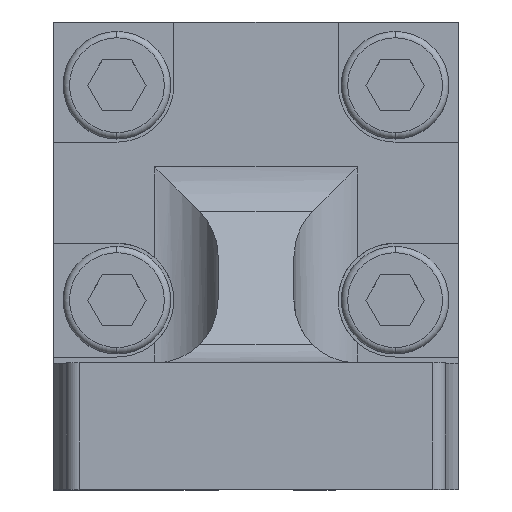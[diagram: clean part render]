
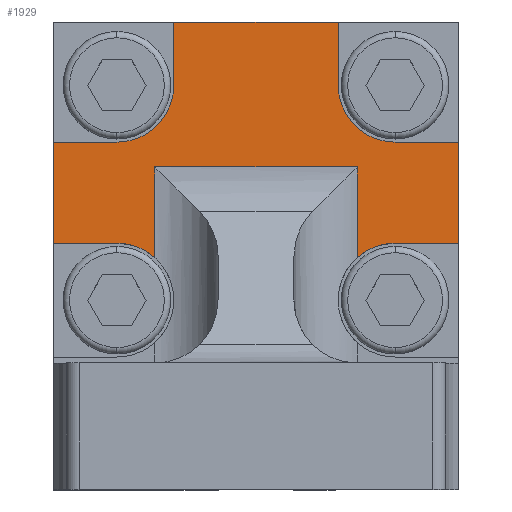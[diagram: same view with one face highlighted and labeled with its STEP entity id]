
A CAD part, top view. The second image highlights one B-rep face of the part: STEP entity #1929.
In plain terms, the highlighted planar face has unit normal (0, 0, 1).
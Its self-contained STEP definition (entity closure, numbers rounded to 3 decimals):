
#31 = CARTESIAN_POINT ( 'NONE',  ( 11., 32., 10. ) ) ;
#36 = CARTESIAN_POINT ( 'NONE',  ( -16., 37., 10. ) ) ;
#57 = CARTESIAN_POINT ( 'NONE',  ( -16., 27.5, 10. ) ) ;
#278 = VECTOR ( 'NONE', #499, 1000. ) ;
#345 = EDGE_CURVE ( 'NONE', #1426, #6202, #1467, .T. ) ;
#370 = VECTOR ( 'NONE', #4044, 1000. ) ;
#421 = EDGE_CURVE ( 'NONE', #1113, #6202, #2029, .T. ) ;
#436 = CARTESIAN_POINT ( 'NONE',  ( 0., 27.5, 10. ) ) ;
#481 = CARTESIAN_POINT ( 'NONE',  ( -11., 15., 10. ) ) ;
#499 = DIRECTION ( 'NONE',  ( 1., 0., 0. ) ) ;
#597 = CARTESIAN_POINT ( 'NONE',  ( 6.5, 37., 10. ) ) ;
#605 = CARTESIAN_POINT ( 'NONE',  ( 16., 0., 10. ) ) ;
#714 = DIRECTION ( 'NONE',  ( -1., 0., 0. ) ) ;
#722 = VECTOR ( 'NONE', #3368, 1000. ) ;
#743 = CARTESIAN_POINT ( 'NONE',  ( 0., 0., 10. ) ) ;
#776 = DIRECTION ( 'NONE',  ( 0., 0., 1. ) ) ;
#808 = DIRECTION ( 'NONE',  ( -1., 0., 0. ) ) ;
#838 = VERTEX_POINT ( 'NONE', #57 ) ;
#842 = LINE ( 'NONE', #6233, #1545 ) ;
#910 = CARTESIAN_POINT ( 'NONE',  ( -16., 0., 10. ) ) ;
#1024 = ORIENTED_EDGE ( 'NONE', *, *, #4637, .T. ) ;
#1096 = VECTOR ( 'NONE', #6228, 1000. ) ;
#1113 = VERTEX_POINT ( 'NONE', #1981 ) ;
#1143 = VECTOR ( 'NONE', #4011, 1000. ) ;
#1164 = LINE ( 'NONE', #605, #5384 ) ;
#1192 = VERTEX_POINT ( 'NONE', #4202 ) ;
#1205 = CARTESIAN_POINT ( 'NONE',  ( -11., 32., 10. ) ) ;
#1248 = CARTESIAN_POINT ( 'NONE',  ( 11., 19.5, 10. ) ) ;
#1293 = AXIS2_PLACEMENT_3D ( 'NONE', #1205, #776, #714 ) ;
#1299 = CARTESIAN_POINT ( 'NONE',  ( -6.5, 37., 10. ) ) ;
#1413 = ORIENTED_EDGE ( 'NONE', *, *, #3505, .F. ) ;
#1426 = VERTEX_POINT ( 'NONE', #597 ) ;
#1460 = DIRECTION ( 'NONE',  ( -1., 0., 0. ) ) ;
#1467 = LINE ( 'NONE', #36, #4114 ) ;
#1506 = VERTEX_POINT ( 'NONE', #3961 ) ;
#1545 = VECTOR ( 'NONE', #4150, 1000. ) ;
#1553 = VERTEX_POINT ( 'NONE', #1248 ) ;
#1555 = DIRECTION ( 'NONE',  ( 0., 1., 0. ) ) ;
#1622 = DIRECTION ( 'NONE',  ( -1., 0., 0. ) ) ;
#1683 = VERTEX_POINT ( 'NONE', #2646 ) ;
#1726 = DIRECTION ( 'NONE',  ( -1., 0., 0. ) ) ;
#1746 = ORIENTED_EDGE ( 'NONE', *, *, #2396, .F. ) ;
#1776 = DIRECTION ( 'NONE',  ( 0., 0., -1. ) ) ;
#1816 = CARTESIAN_POINT ( 'NONE',  ( 8., 18.354, 10. ) ) ;
#1837 = ORIENTED_EDGE ( 'NONE', *, *, #2964, .F. ) ;
#1838 = DIRECTION ( 'NONE',  ( 0., 0., 1. ) ) ;
#1839 = EDGE_CURVE ( 'NONE', #838, #5523, #5470, .T. ) ;
#1911 = LINE ( 'NONE', #4933, #722 ) ;
#1922 = EDGE_CURVE ( 'NONE', #5225, #5530, #2762, .T. ) ;
#1929 = ADVANCED_FACE ( 'NONE', ( #5284 ), #5711, .F. ) ;
#1981 = CARTESIAN_POINT ( 'NONE',  ( -6.5, 32., 10. ) ) ;
#2029 = LINE ( 'NONE', #5968, #2062 ) ;
#2062 = VECTOR ( 'NONE', #1555, 1000. ) ;
#2076 = ORIENTED_EDGE ( 'NONE', *, *, #3391, .F. ) ;
#2097 = LINE ( 'NONE', #4962, #1143 ) ;
#2114 = VERTEX_POINT ( 'NONE', #3671 ) ;
#2186 = VERTEX_POINT ( 'NONE', #3365 ) ;
#2192 = CARTESIAN_POINT ( 'NONE',  ( 3., 25.536, 10. ) ) ;
#2223 = CARTESIAN_POINT ( 'NONE',  ( 8., 0., 10. ) ) ;
#2396 = EDGE_CURVE ( 'NONE', #3562, #6241, #4981, .T. ) ;
#2427 = ORIENTED_EDGE ( 'NONE', *, *, #5634, .F. ) ;
#2646 = CARTESIAN_POINT ( 'NONE',  ( -16., 19.5, 10. ) ) ;
#2692 = DIRECTION ( 'NONE',  ( -1., 0., 0. ) ) ;
#2724 = AXIS2_PLACEMENT_3D ( 'NONE', #743, #1776, #808 ) ;
#2762 = LINE ( 'NONE', #2223, #1096 ) ;
#2835 = ORIENTED_EDGE ( 'NONE', *, *, #421, .F. ) ;
#2964 = EDGE_CURVE ( 'NONE', #5225, #2186, #3626, .T. ) ;
#3007 = VECTOR ( 'NONE', #1726, 1000. ) ;
#3113 = EDGE_CURVE ( 'NONE', #2114, #3840, #5392, .T. ) ;
#3139 = DIRECTION ( 'NONE',  ( 0., 0., 1. ) ) ;
#3194 = ORIENTED_EDGE ( 'NONE', *, *, #5793, .T. ) ;
#3249 = ORIENTED_EDGE ( 'NONE', *, *, #1839, .F. ) ;
#3250 = CARTESIAN_POINT ( 'NONE',  ( -11., 27.5, 10. ) ) ;
#3320 = EDGE_CURVE ( 'NONE', #1426, #1506, #5709, .T. ) ;
#3365 = CARTESIAN_POINT ( 'NONE',  ( -8., 25.536, 10. ) ) ;
#3368 = DIRECTION ( 'NONE',  ( -1., 0., 0. ) ) ;
#3391 = EDGE_CURVE ( 'NONE', #5523, #1113, #4581, .T. ) ;
#3395 = EDGE_CURVE ( 'NONE', #1553, #5530, #4367, .T. ) ;
#3453 = ORIENTED_EDGE ( 'NONE', *, *, #5751, .F. ) ;
#3481 = ORIENTED_EDGE ( 'NONE', *, *, #3395, .F. ) ;
#3505 = EDGE_CURVE ( 'NONE', #1506, #3562, #4877, .T. ) ;
#3562 = VERTEX_POINT ( 'NONE', #5049 ) ;
#3573 = ORIENTED_EDGE ( 'NONE', *, *, #1922, .T. ) ;
#3603 = CARTESIAN_POINT ( 'NONE',  ( 8., 25.536, 10. ) ) ;
#3625 = ORIENTED_EDGE ( 'NONE', *, *, #345, .T. ) ;
#3626 = LINE ( 'NONE', #2192, #3007 ) ;
#3671 = CARTESIAN_POINT ( 'NONE',  ( -8., 18.354, 10. ) ) ;
#3673 = EDGE_CURVE ( 'NONE', #1192, #6241, #1164, .T. ) ;
#3680 = DIRECTION ( 'NONE',  ( 0., -1., 0. ) ) ;
#3759 = CARTESIAN_POINT ( 'NONE',  ( 11., 15., 10. ) ) ;
#3840 = VERTEX_POINT ( 'NONE', #4809 ) ;
#3872 = DIRECTION ( 'NONE',  ( 0., -1., 0. ) ) ;
#3961 = CARTESIAN_POINT ( 'NONE',  ( 6.5, 32., 10. ) ) ;
#4011 = DIRECTION ( 'NONE',  ( -1., 0., 0. ) ) ;
#4023 = VECTOR ( 'NONE', #3872, 1000. ) ;
#4044 = DIRECTION ( 'NONE',  ( 1., 0., 0. ) ) ;
#4114 = VECTOR ( 'NONE', #5389, 1000. ) ;
#4136 = ORIENTED_EDGE ( 'NONE', *, *, #3113, .F. ) ;
#4150 = DIRECTION ( 'NONE',  ( 0., 1., 0. ) ) ;
#4202 = CARTESIAN_POINT ( 'NONE',  ( 16., 19.5, 10. ) ) ;
#4259 = AXIS2_PLACEMENT_3D ( 'NONE', #31, #5517, #1622 ) ;
#4367 = CIRCLE ( 'NONE', #4471, 4.5 ) ;
#4442 = ORIENTED_EDGE ( 'NONE', *, *, #3673, .T. ) ;
#4471 = AXIS2_PLACEMENT_3D ( 'NONE', #3759, #3139, #2692 ) ;
#4504 = CARTESIAN_POINT ( 'NONE',  ( 0., 27.5, 10. ) ) ;
#4528 = ORIENTED_EDGE ( 'NONE', *, *, #3320, .F. ) ;
#4581 = CIRCLE ( 'NONE', #1293, 4.5 ) ;
#4637 = EDGE_CURVE ( 'NONE', #838, #1683, #4835, .T. ) ;
#4809 = CARTESIAN_POINT ( 'NONE',  ( -11., 19.5, 10. ) ) ;
#4835 = LINE ( 'NONE', #910, #4023 ) ;
#4877 = CIRCLE ( 'NONE', #4259, 4.5 ) ;
#4884 = AXIS2_PLACEMENT_3D ( 'NONE', #481, #1838, #1460 ) ;
#4920 = EDGE_LOOP ( 'NONE', ( #2427, #4136, #3194, #1837, #3573, #3481, #3453, #4442, #1746, #1413, #4528, #3625, #2835, #2076, #3249, #1024 ) ) ;
#4933 = CARTESIAN_POINT ( 'NONE',  ( 0., 19.5, 10. ) ) ;
#4962 = CARTESIAN_POINT ( 'NONE',  ( 0., 19.5, 10. ) ) ;
#4981 = LINE ( 'NONE', #436, #278 ) ;
#5049 = CARTESIAN_POINT ( 'NONE',  ( 11., 27.5, 10. ) ) ;
#5084 = DIRECTION ( 'NONE',  ( 0., 1., 0. ) ) ;
#5185 = CARTESIAN_POINT ( 'NONE',  ( 16., 27.5, 10. ) ) ;
#5225 = VERTEX_POINT ( 'NONE', #3603 ) ;
#5284 = FACE_OUTER_BOUND ( 'NONE', #4920, .T. ) ;
#5384 = VECTOR ( 'NONE', #5084, 1000. ) ;
#5389 = DIRECTION ( 'NONE',  ( -1., 0., 0. ) ) ;
#5392 = CIRCLE ( 'NONE', #4884, 4.5 ) ;
#5470 = LINE ( 'NONE', #4504, #370 ) ;
#5517 = DIRECTION ( 'NONE',  ( 0., 0., 1. ) ) ;
#5523 = VERTEX_POINT ( 'NONE', #3250 ) ;
#5530 = VERTEX_POINT ( 'NONE', #1816 ) ;
#5634 = EDGE_CURVE ( 'NONE', #3840, #1683, #1911, .T. ) ;
#5709 = LINE ( 'NONE', #6091, #6129 ) ;
#5711 = PLANE ( 'NONE',  #2724 ) ;
#5751 = EDGE_CURVE ( 'NONE', #1192, #1553, #2097, .T. ) ;
#5793 = EDGE_CURVE ( 'NONE', #2114, #2186, #842, .T. ) ;
#5968 = CARTESIAN_POINT ( 'NONE',  ( -6.5, 0., 10. ) ) ;
#6091 = CARTESIAN_POINT ( 'NONE',  ( 6.5, 0., 10. ) ) ;
#6129 = VECTOR ( 'NONE', #3680, 1000. ) ;
#6202 = VERTEX_POINT ( 'NONE', #1299 ) ;
#6228 = DIRECTION ( 'NONE',  ( 0., -1., 0. ) ) ;
#6233 = CARTESIAN_POINT ( 'NONE',  ( -8., 25.536, 10. ) ) ;
#6241 = VERTEX_POINT ( 'NONE', #5185 ) ;
